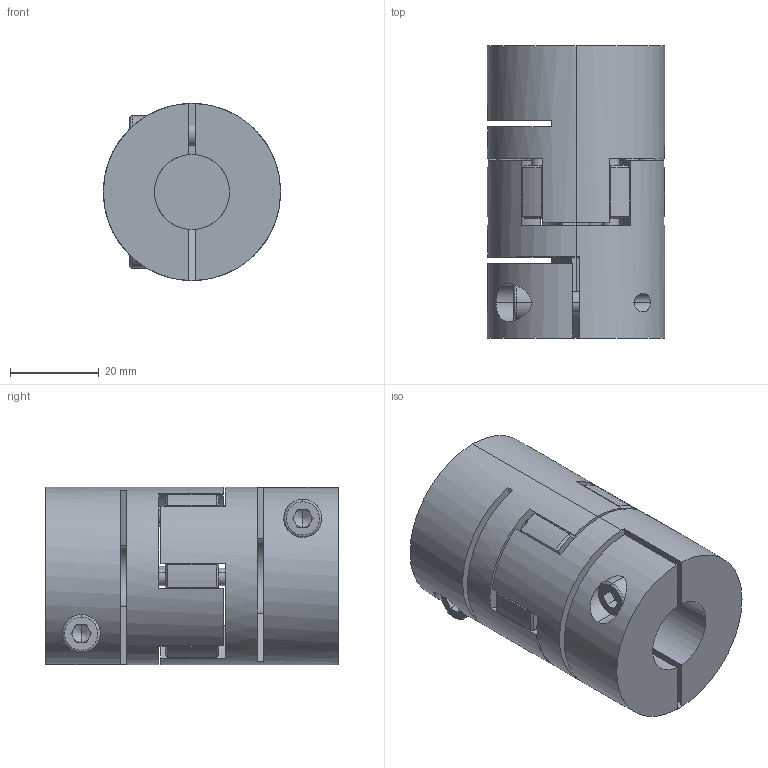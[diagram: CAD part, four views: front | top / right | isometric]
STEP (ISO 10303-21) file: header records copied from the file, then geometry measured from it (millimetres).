
FILE_DESCRIPTION (( 'STEP AP214' ), '1' );
FILE_NAME ('2.5006 Sakarakytkin MM2 40 D14_17.STEP', '2024-05-31T09:58:21', ( '' ), ( '' ), 'SwSTEP 2.0', 'SolidWorks 2024', '' );
FILE_SCHEMA (( 'AUTOMOTIVE_DESIGN' ));
Length unit declared in the file: millimetre
Products named in the file (1): 2.5006 Sakarakytkin MM2 40 D14_17
Bounding box: 40 x 66 x 40 mm (x, y, z)
Volume: 65988.6 mm3; surface area: 25318.2 mm2
Topology: 5 solids, 5 shells, 226 faces, 555 edges, 350 vertices
Faces by surface type: cylinder 97, plane 73, cone 48, bspline 8
Entity records: 9276 total; most frequent: CARTESIAN_POINT 2094, DIRECTION 1193, ORIENTED_EDGE 1102, EDGE_CURVE 551, AXIS2_PLACEMENT_3D 495, VERTEX_POINT 350, CIRCLE 276, EDGE_LOOP 253
